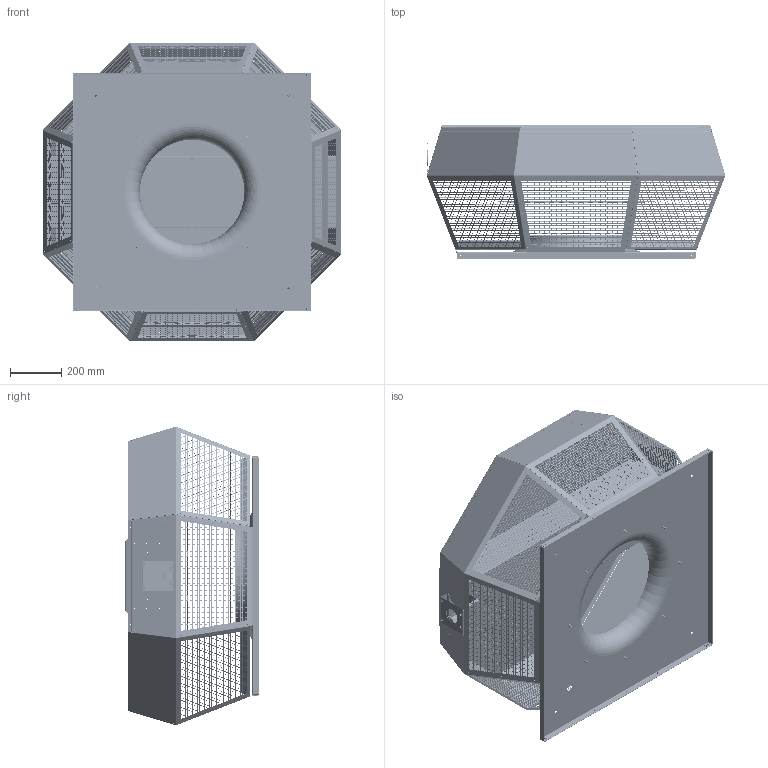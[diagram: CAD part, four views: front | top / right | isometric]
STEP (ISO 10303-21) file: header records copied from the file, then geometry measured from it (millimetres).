
FILE_DESCRIPTION (( 'STEP AP203' ), '1' );
FILE_NAME ('131279-00_DHA560ECP30.STEP', '2015-02-26T13:14:30', ( '' ), ( '' ), 'SwSTEP 2.0', 'SolidWorks 2012', '' );
FILE_SCHEMA (( 'CONFIG_CONTROL_DESIGN' ));
Products named in the file (1): 131279-00_DHA560ECP30
Bounding box: 1165.62 x 520.75 x 1165.1 mm (x, y, z)
Surface area: 7605230 mm2 (no closed solid volume)
Topology: 0 solids, 67 shells, 8965 faces, 52562 edges, 39322 vertices
Faces by surface type: plane 8402, cylinder 505, cone 28, torus 26, bspline 4
Entity records: 509489 total; most frequent: CARTESIAN_POINT 102196, ORIENTED_EDGE 74104, DIRECTION 71940, EDGE_CURVE 52562, LINE 50648, VECTOR 50648, VERTEX_POINT 39322, EDGE_LOOP 18716
